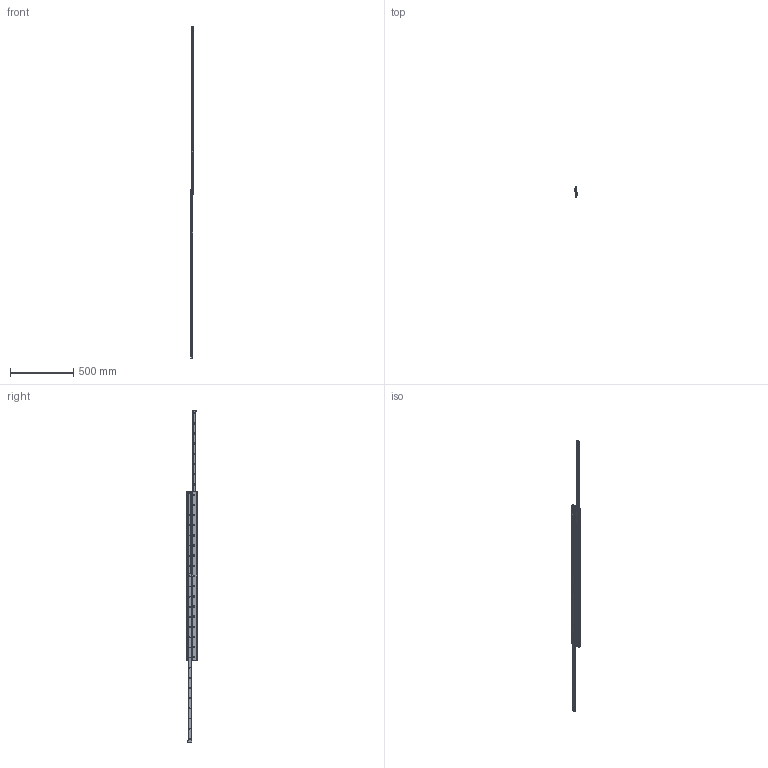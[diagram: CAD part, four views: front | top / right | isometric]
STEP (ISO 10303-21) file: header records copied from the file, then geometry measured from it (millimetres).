
FILE_DESCRIPTION (( 'STEP AP203' ), '1' );
FILE_NAME ('L1984.28D-1330.step', '2018-07-03T12:16:47', ( '' ), ( '' ), 'SwSTEP 2.0', 'SolidWorks 2017', '' );
FILE_SCHEMA (( 'CONFIG_CONTROL_DESIGN' ));
Length unit declared in the file: millimetre
Products named in the file (5): Part0_L1984.28D-1330; Part2_L1984.28D-1330; Part3_L1984.28D-1330; L1984.28D-1330; Part1_L1984.28D-1330
Assembly tree (7 placements, depth 2):
  L1984.28D-1330
    Part0_L1984.28D-1330
    Part2_L1984.28D-1330  x2
    Part1_L1984.28D-1330  x2
    Part3_L1984.28D-1330  x2
Bounding box: 17 x 84 x 2616 mm (x, y, z)
Volume: 1139419.1 mm3; surface area: 783152.6 mm2
Topology: 7 solids, 7 shells, 770 faces, 1942 edges, 1292 vertices
Faces by surface type: plane 504, cone 136, cylinder 130
Entity records: 17806 total; most frequent: CARTESIAN_POINT 2979, DIRECTION 2955, ORIENTED_EDGE 2874, EDGE_CURVE 1437, LINE 1091, VECTOR 1091, VERTEX_POINT 956, AXIS2_PLACEMENT_3D 932
